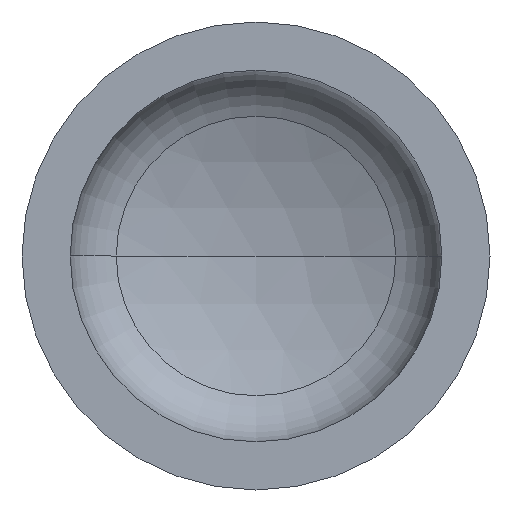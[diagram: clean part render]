
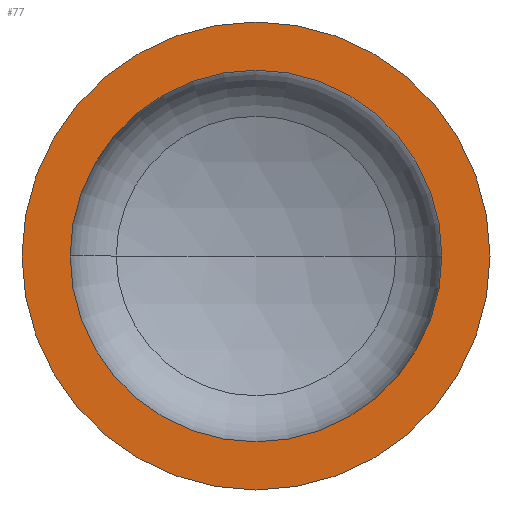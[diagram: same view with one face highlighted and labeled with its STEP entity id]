
A CAD part, front view. The second image highlights one B-rep face of the part: STEP entity #77.
In plain terms, the highlighted planar face has unit normal (0, -1, 0).
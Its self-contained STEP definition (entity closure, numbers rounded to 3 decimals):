
#1 = CARTESIAN_POINT ( 'NONE',  ( -278., 0., 0. ) ) ;
#2 = AXIS2_PLACEMENT_3D ( 'NONE', #359, #331, #160 ) ;
#11 = ORIENTED_EDGE ( 'NONE', *, *, #61, .F. ) ;
#22 = AXIS2_PLACEMENT_3D ( 'NONE', #284, #159, #378 ) ;
#31 = FACE_BOUND ( 'NONE', #127, .T. ) ;
#38 = AXIS2_PLACEMENT_3D ( 'NONE', #351, #350, #339 ) ;
#39 = AXIS2_PLACEMENT_3D ( 'NONE', #188, #190, #337 ) ;
#59 = EDGE_CURVE ( 'NONE', #210, #134, #73, .T. ) ;
#61 = EDGE_CURVE ( 'NONE', #277, #104, #168, .T. ) ;
#73 = CIRCLE ( 'NONE', #39, 350. ) ;
#77 = ADVANCED_FACE ( 'NONE', ( #31, #303 ), #205, .F. ) ;
#104 = VERTEX_POINT ( 'NONE', #1 ) ;
#109 = CARTESIAN_POINT ( 'NONE',  ( 0., 0., 0. ) ) ;
#110 = AXIS2_PLACEMENT_3D ( 'NONE', #109, #213, #340 ) ;
#115 = ORIENTED_EDGE ( 'NONE', *, *, #344, .F. ) ;
#127 = EDGE_LOOP ( 'NONE', ( #11, #115 ) ) ;
#132 = CARTESIAN_POINT ( 'NONE',  ( -350., 0., 0. ) ) ;
#134 = VERTEX_POINT ( 'NONE', #401 ) ;
#159 = DIRECTION ( 'NONE',  ( 0., 1., 0. ) ) ;
#160 = DIRECTION ( 'NONE',  ( 1., 0., 0. ) ) ;
#168 = CIRCLE ( 'NONE', #38, 278. ) ;
#187 = ORIENTED_EDGE ( 'NONE', *, *, #354, .T. ) ;
#188 = CARTESIAN_POINT ( 'NONE',  ( 0., 0., 0. ) ) ;
#190 = DIRECTION ( 'NONE',  ( 0., -1., 0. ) ) ;
#201 = EDGE_LOOP ( 'NONE', ( #187, #231 ) ) ;
#205 = PLANE ( 'NONE',  #22 ) ;
#210 = VERTEX_POINT ( 'NONE', #132 ) ;
#213 = DIRECTION ( 'NONE',  ( 0., -1., 0. ) ) ;
#231 = ORIENTED_EDGE ( 'NONE', *, *, #59, .T. ) ;
#277 = VERTEX_POINT ( 'NONE', #400 ) ;
#284 = CARTESIAN_POINT ( 'NONE',  ( -350., 0., 0. ) ) ;
#303 = FACE_OUTER_BOUND ( 'NONE', #201, .T. ) ;
#331 = DIRECTION ( 'NONE',  ( 0., -1., 0. ) ) ;
#337 = DIRECTION ( 'NONE',  ( 1., 0., 0. ) ) ;
#339 = DIRECTION ( 'NONE',  ( 1., 0., 0. ) ) ;
#340 = DIRECTION ( 'NONE',  ( 1., 0., 0. ) ) ;
#344 = EDGE_CURVE ( 'NONE', #104, #277, #410, .T. ) ;
#350 = DIRECTION ( 'NONE',  ( 0., -1., 0. ) ) ;
#351 = CARTESIAN_POINT ( 'NONE',  ( 0., 0., 0. ) ) ;
#354 = EDGE_CURVE ( 'NONE', #134, #210, #391, .T. ) ;
#359 = CARTESIAN_POINT ( 'NONE',  ( 0., 0., 0. ) ) ;
#378 = DIRECTION ( 'NONE',  ( -1., 0., 0. ) ) ;
#391 = CIRCLE ( 'NONE', #110, 350. ) ;
#400 = CARTESIAN_POINT ( 'NONE',  ( 278., 0., 0. ) ) ;
#401 = CARTESIAN_POINT ( 'NONE',  ( 350., 0., 0. ) ) ;
#410 = CIRCLE ( 'NONE', #2, 278. ) ;
